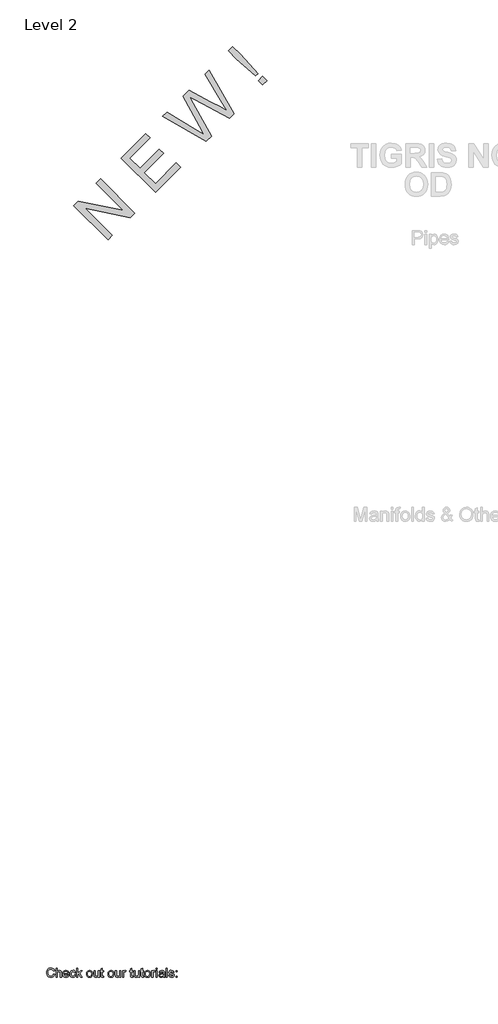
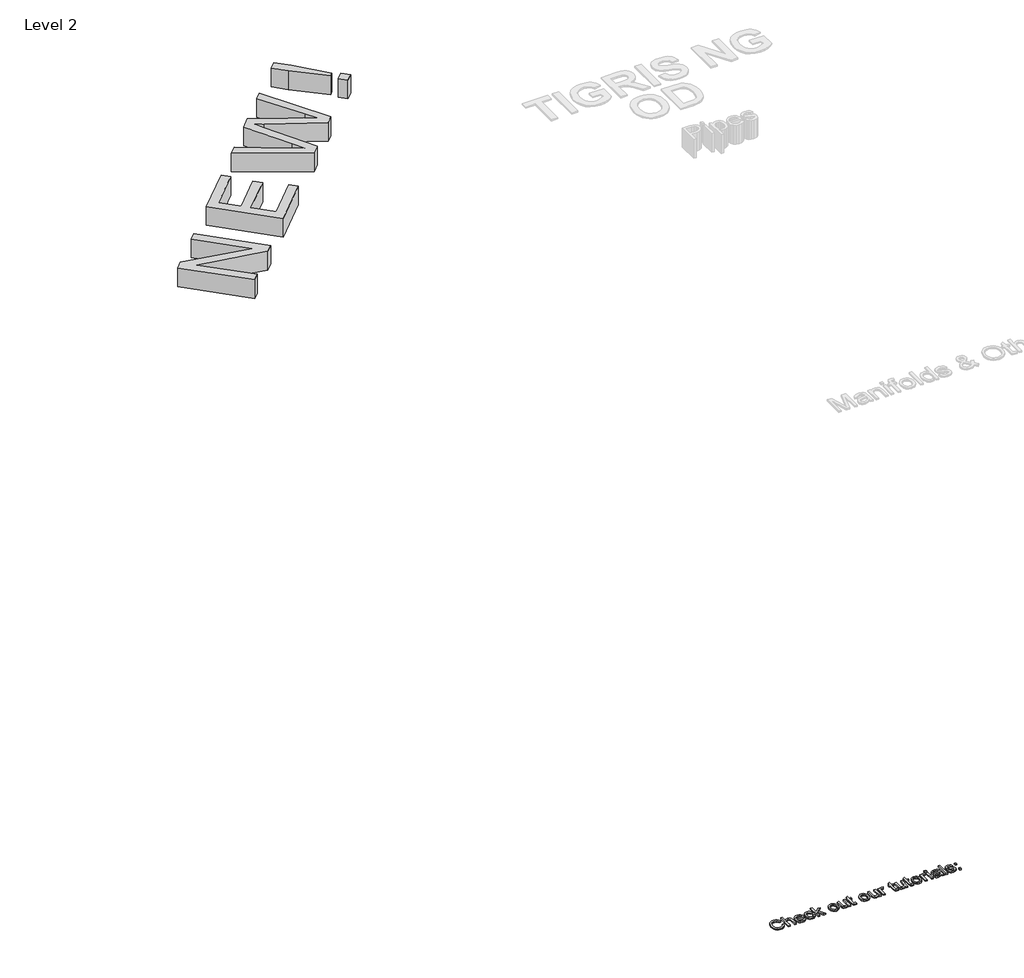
# One storey, part 1 of 2: 2 proxies.
"""IFC4 building model written with IfcOpenShell, lengths in millimetres."""

import ifcopenshell
import ifcopenshell.guid

model = None  # the IFC model being written
_history = None  # IfcOwnerHistory: only IFC2X3 demands one
_inside = {}  # id of a spatial element -> (the spatial element, [elements in it])
_under = {}  # id of a project, library or spatial element -> (it, [spatial elements below it])
_declared = {}  # id of a project -> (the project, [libraries it declares])
_typed = {}  # id of a type object -> (the type object, [elements of that type])
_made_of = {}  # id of a material, layer set ... -> (it, [elements and type objects made of it])


def new_model(schema):
    """Start an empty IFC model of exactly this schema.

    Asked for "IFC4X3", IfcOpenShell would pick the latest addendum, in which some entities
    have other attributes; the version numbers below select the first issue.
    IFC2X3 requires an IfcOwnerHistory on every rooted entity: one is made here for all.
    """
    global model, _history
    if schema == "IFC4X3":
        model = ifcopenshell.file(schema_version=(4, 3, 0, 0))
    else:
        model = ifcopenshell.file(schema=schema)
    _inside.clear()
    _under.clear()
    _declared.clear()
    _typed.clear()
    _made_of.clear()
    _history = None
    if model.schema == "IFC2X3":
        org = make("IfcOrganization", Name="unknown")
        user = make(
            "IfcPersonAndOrganization",
            ThePerson=make("IfcPerson", FamilyName="unknown"),
            TheOrganization=org,
        )
        app = make(
            "IfcApplication",
            ApplicationDeveloper=org,
            Version="unknown",
            ApplicationFullName="unknown",
            ApplicationIdentifier="unknown",
        )
        _history = make(
            "IfcOwnerHistory",
            OwningUser=user,
            OwningApplication=app,
            ChangeAction="ADDED",
            CreationDate=0,
        )
    return model


def make(cls, **values):
    """One entity of the class cls with the attributes given. An attribute that is None is left unset."""
    return model.create_entity(
        cls, **{name: value for name, value in values.items() if value is not None}
    )


def rooted(cls, **values):
    """An entity with a GlobalId (a new one), such as an element, a storey or a relation."""
    return make(cls, GlobalId=ifcopenshell.guid.new(), OwnerHistory=_history, **values)


def si_unit(unit_type, name, prefix=None):
    """IfcSIUnit, for example si_unit("LENGTHUNIT", "METRE", prefix="MILLI")."""
    return make("IfcSIUnit", UnitType=unit_type, Prefix=prefix, Name=name)


def assignment(units):
    """IfcUnitAssignment: the units of a project."""
    return None if units is None else make("IfcUnitAssignment", Units=units)


def point(xyz):
    """IfcCartesianPoint."""
    return None if xyz is None else make("IfcCartesianPoint", Coordinates=xyz)


def direction(xyz):
    """IfcDirection."""
    return None if xyz is None else make("IfcDirection", DirectionRatios=xyz)


def frame(location, z_axis=None, x_axis=None):
    """IfcAxis2Placement3D, a coordinate frame: its origin and axes. An axis left out is left unset."""
    return make(
        "IfcAxis2Placement3D",
        Location=point(location),
        Axis=direction(z_axis),
        RefDirection=direction(x_axis),
    )


def origin():
    """The frame at (0, 0, 0) with its axes left unset."""
    return frame((0.0, 0.0, 0.0))


def origin_with_axes():
    """The frame at (0, 0, 0) with the z axis (0, 0, 1) and the x axis (1, 0, 0) written out."""
    return frame((0.0, 0.0, 0.0), z_axis=(0.0, 0.0, 1.0), x_axis=(1.0, 0.0, 0.0))


def place(relative_to, where):
    """IfcLocalPlacement: puts the frame where relative to a parent placement (None: the world)."""
    return make(
        "IfcLocalPlacement", PlacementRelTo=relative_to, RelativePlacement=where
    )


def context(
    kind, dimensions, precision=None, world=None, true_north=None, identifier=None
):
    """IfcGeometricRepresentationContext, for example the 3D "Model" context."""
    return make(
        "IfcGeometricRepresentationContext",
        ContextIdentifier=identifier,
        ContextType=kind,
        CoordinateSpaceDimension=dimensions,
        Precision=precision,
        WorldCoordinateSystem=world,
        TrueNorth=true_north,
    )


def project(units=None, contexts=None):
    """IfcProject with its units and contexts."""
    return rooted(
        "IfcProject",
        Name="project",
        RepresentationContexts=contexts,
        UnitsInContext=assignment(units),
    )


def spatial(cls, under=None, at=None, **own):
    """A site, building, storey or space (cls), placed at a placement, below another one or the project."""
    s = rooted(cls, ObjectPlacement=at, **own)
    if under is not None:
        _under.setdefault(under.id(), (under, []))[1].append(s)
    return s


def polyline(points):
    """IfcPolyline through the points."""
    return make("IfcPolyline", Points=[point(p) for p in points])


def outline(outer, holes=None, kind="AREA"):
    """IfcArbitraryClosedProfileDef: a profile drawn as a closed curve; with holes, ...WithVoids."""
    if holes is None:
        return make("IfcArbitraryClosedProfileDef", ProfileType=kind, OuterCurve=outer)
    return make(
        "IfcArbitraryProfileDefWithVoids",
        ProfileType=kind,
        OuterCurve=outer,
        InnerCurves=holes,
    )


def extrude(swept, where, along, depth):
    """IfcExtrudedAreaSolid: the profile swept, set in the frame where, extruded along a direction by depth."""
    return make(
        "IfcExtrudedAreaSolid",
        SweptArea=swept,
        Position=where,
        ExtrudedDirection=direction(along),
        Depth=depth,
    )


def shape(context_of_items, identifier, shape_type, items):
    """IfcShapeRepresentation: the items that make up one representation, for example the "Body"."""
    return make(
        "IfcShapeRepresentation",
        ContextOfItems=context_of_items,
        RepresentationIdentifier=identifier,
        RepresentationType=shape_type,
        Items=items,
    )


def made_of(thing, what):
    """Note that an element or type object is made of a material, layer set ...; save() writes the relation."""
    if what is not None:
        _made_of.setdefault(what.id(), (what, []))[1].append(thing)
    return thing


def element(
    cls,
    number,
    at=None,
    inside=None,
    cuts=None,
    type_object=None,
    material=None,
    context=None,
    identifier="Body",
    shape_type=None,
    held_by="IfcProductDefinitionShape",
    body=None,
    shapes=None,
    **own,
):
    """One element of the class cls, such as IfcWall. Its Tag is "e" and its number.

    at: its placement. inside: the storey or other place that contains it. cuts: it is an
    opening in that element (IfcRelVoidsElement). A single representation is given by context,
    identifier, shape_type and body (its items); several are given by shapes. held_by: the class
    of the entity that holds the representations. save() writes the other relations.
    """
    e = rooted(cls, Tag="e%d" % number, ObjectPlacement=at, **own)
    if body is not None:
        shapes = [shape(context, identifier, shape_type, body)]
    if shapes is not None:
        e.Representation = make(held_by, Representations=shapes)
    if inside is not None:
        _inside.setdefault(inside.id(), (inside, []))[1].append(e)
    if cuts is not None:
        rooted(
            "IfcRelVoidsElement", RelatingBuildingElement=cuts, RelatedOpeningElement=e
        )
    if type_object is not None:
        _typed.setdefault(type_object.id(), (type_object, []))[1].append(e)
    return made_of(e, material)


def aggregate(whole, parts):
    """IfcRelAggregates: a whole, such as a stair, and the parts it consists of."""
    return rooted("IfcRelAggregates", RelatingObject=whole, RelatedObjects=parts)


def save(model, path):
    """Write the relations noted so far, then the file.

    IfcRelAggregates (storeys below a building ...), IfcRelContainedInSpatialStructure (elements
    in a storey), IfcRelDefinesByType, IfcRelAssociatesMaterial and IfcRelDeclares: one each for
    every whole, place, type object, material and project.
    """
    for whole, parts in _under.values():
        aggregate(whole, parts)
    for where, things in _inside.values():
        rooted(
            "IfcRelContainedInSpatialStructure",
            RelatedElements=things,
            RelatingStructure=where,
        )
    for kind, things in _typed.values():
        rooted("IfcRelDefinesByType", RelatedObjects=things, RelatingType=kind)
    for what, things in _made_of.values():
        rooted("IfcRelAssociatesMaterial", RelatedObjects=things, RelatingMaterial=what)
    for by, libraries in _declared.values():
        rooted("IfcRelDeclares", RelatingContext=by, RelatedDefinitions=libraries)
    model.write(path)


model = new_model("IFC4")

# Units and contexts
model_context = context("Model", 3, world=origin())
ifc_project = project(units=[si_unit("LENGTHUNIT", "METRE", prefix="MILLI")], contexts=[model_context])

# Site, building, storey
site = spatial("IfcSite", under=ifc_project)
building = spatial("IfcBuilding", under=site)
storey = spatial("IfcBuildingStorey", under=building, Name="Level 2", Elevation=0.0)

# Proxies
placement = place(None, origin())
element("IfcBuildingElementProxy", 1, Name="Rockwell 500", ObjectType="Rockwell 500", at=placement, inside=storey, context=model_context, shape_type="SweptSolid", body=[
    extrude(outline(polyline([(5752.1904248, 13081.1447507), (5382.0446829, 13451.2904926), (5431.5661347, 13500.8119444), (5918.1957295, 13400.9557323), (5624.952826, 13694.1986357), (5671.2210438, 13740.4668535), (6041.3667857, 13370.3211116), (5991.8453339, 13320.7996598), (5505.1253715, 13420.7462395), (5798.4586425, 13127.4129684), (5752.1904248, 13081.1447507)])), origin_with_axes(), (0.0, 0.0, 1.0), 150.0),
    extrude(outline(polyline([(6266.9243472, 13595.8786731), (5896.7786052, 13966.024415), (6162.8208572, 14232.066667), (6209.089075, 14185.7984492), (5989.3150407, 13966.024415), (6099.2020579, 13856.1373978), (6307.4090377, 14064.3443777), (6353.6772554, 14018.0761599), (6145.4702756, 13809.8691801), (6266.9243472, 13688.4151085), (6492.4819086, 13913.97267), (6538.7501264, 13867.7044523), (6266.9243472, 13595.8786731)])), origin_with_axes(), (0.0, 0.0, 1.0), 150.0),
    extrude(outline(polyline([(6818.9800936, 14147.9344195), (6347.8937282, 14417.1395379), (6395.6078278, 14464.8536375), (6697.4356544, 14280.142237), (6790.6046632, 14223.1202733), (6743.5231369, 14308.8791378), (6564.9567341, 14634.2025438), (6633.7264874, 14702.9722971), (6869.6763244, 14573.6562433), (6960.2924481, 14528.7209478), (7045.0798608, 14477.5954709), (6989.6845141, 14568.0534513), (6803.3464966, 14872.5923063), (6851.0605961, 14920.3064059), (7120.175347, 14449.1296729), (7070.7442628, 14399.6985887), (6696.4416107, 14596.5192493), (6644.2091305, 14623.9910036), (6678.2777205, 14562.0891888), (6874.8272783, 14203.7816042), (6818.9800936, 14147.9344195)])), origin_with_axes(), (0.0, 0.0, 1.0), 150.0),
    extrude(outline(polyline([(7354.2274641, 14856.6876065), (7142.8576178, 15044.9233439), (7059.267576, 15128.5133857), (7105.5357937, 15174.7816034), (7189.1258355, 15091.1915616), (7377.3615729, 14879.8217153), (7354.2274641, 14856.6876065)])), origin_with_axes(), (0.0, 0.0, 1.0), 150.0),
    extrude(outline(polyline([(7429.4133179, 14758.3676438), (7383.1451001, 14804.6358615), (7429.4133179, 14850.9040792), (7475.6815356, 14804.6358615), (7429.4133179, 14758.3676438)])), origin_with_axes(), (0.0, 0.0, 1.0), 150.0),
])
element("IfcBuildingElementProxy", 2, Name="Arial 100", ObjectType="Arial 100", at=placement, inside=storey, context=model_context, shape_type="SweptSolid", body=[
    extrude(outline(polyline([(5161.2988692, 5124.3910787), (5173.8559079, 5121.1537171), (5168.0617665, 5106.5212107), (5158.9689499, 5095.8311731), (5147.0250478, 5089.2920706), (5132.6776499, 5087.1123698), (5118.1125886, 5088.7617074), (5106.5457656, 5093.7097203), (5097.6798095, 5101.7847301), (5091.2173491, 5112.8150585), (5085.9566366, 5139.6704442), (5087.443493, 5154.318279), (5091.9040621, 5166.9672882), (5099.1053522, 5177.2158675), (5108.8143712, 5184.6624122), (5120.3290776, 5189.1965578), (5132.9474301, 5190.7079397), (5146.7154137, 5188.7520337), (5158.0982958, 5182.8843159), (5166.740457, 5173.4665368), (5172.2862781, 5160.8604471), (5159.7292393, 5157.8683402), (5149.4285435, 5173.3071213), (5132.4569207, 5178.1509009), (5112.8120222, 5172.7798238), (5101.7142487, 5158.3588495), (5098.5136753, 5139.6949697), (5102.3028599, 5118.0635083), (5114.0996092, 5104.2434081), (5131.4268512, 5099.6694086), (5141.9084223, 5101.2267757), (5150.642554, 5105.898877), (5157.2368388, 5113.6366617), (5161.2988692, 5124.3910787)])), origin_with_axes(), (0.0, 0.0, 1.0), 10.0),
    extrude(outline(polyline([(5189.5522064, 5088.6819997), (5189.5522064, 5189.1383098), (5202.1092452, 5189.1383098), (5202.1092452, 5152.2029575), (5211.9010376, 5161.0689136), (5223.9614357, 5164.0242323), (5238.0635788, 5160.7991334), (5246.6229666, 5151.8841264), (5249.1981406, 5135.3784876), (5249.1981406, 5088.6819997), (5236.6411018, 5088.6819997), (5236.6411018, 5134.0786379), (5232.6434508, 5147.3223897), (5221.3126853, 5151.4671935), (5211.0242522, 5148.6712903), (5204.1571216, 5141.0929212), (5202.1092452, 5127.8736949), (5202.1092452, 5088.6819997), (5189.5522064, 5088.6819997)])), origin_with_axes(), (0.0, 0.0, 1.0), 10.0),
    extrude(outline(polyline([(5318.114701, 5110.6568175), (5330.4264851, 5109.0871877), (5325.9904414, 5099.81043), (5318.9117786, 5092.8758544), (5309.3499124, 5088.553241), (5297.4642583, 5087.1123698), (5282.7305844, 5089.598639), (5271.3936876, 5097.0574464), (5264.1648064, 5109.0044142), (5261.7551793, 5124.9551644), (5264.1893319, 5141.4424091), (5271.4917895, 5153.7725873), (5282.6754021, 5161.461321), (5296.7530198, 5164.0242323), (5310.3922448, 5161.4674524), (5321.2907489, 5153.7971128), (5328.4368566, 5141.4914601), (5330.8188925, 5125.0287408), (5330.7453162, 5121.6442264), (5274.3122181, 5121.6442264), (5276.4857875, 5112.2448414), (5281.5349679, 5105.3347913), (5288.8220971, 5101.0857543), (5297.709513, 5099.6694086), (5310.0212971, 5102.2936335), (5318.114701, 5110.6568175)]), holes=[polyline([(5274.3122181, 5134.2012652), (5318.2618538, 5134.2012652), (5313.2341332, 5145.5810816), (5305.9132815, 5149.9956655), (5296.7039689, 5151.4671935), (5281.2406623, 5146.7705667), (5276.3754229, 5141.2799279), (5274.3122181, 5134.2012652)])]), origin_with_axes(), (0.0, 0.0, 1.0), 10.0),
    extrude(outline(polyline([(5390.4648267, 5115.365707), (5403.0218655, 5113.7960772), (5399.5208551, 5102.627793), (5392.9418988, 5094.1879668), (5383.9042645, 5088.8812691), (5373.0272201, 5087.1123698), (5359.670038, 5089.5802449), (5349.225255, 5096.98387), (5342.4838175, 5108.9982828), (5340.2366716, 5125.2985209), (5344.0749071, 5146.15743), (5355.7735546, 5159.5605974), (5372.8555419, 5164.0242323), (5383.4658717, 5162.4913906), (5391.9486174, 5157.8928657), (5398.0339988, 5150.4739121), (5401.4522356, 5140.4797846), (5388.8951969, 5138.9101547), (5383.0703986, 5148.3156711), (5372.9536437, 5151.4671935), (5364.8387801, 5149.9159578), (5358.3977795, 5145.2622505), (5354.1947277, 5137.2546858), (5352.7937104, 5125.6418774), (5354.1640708, 5113.8727193), (5358.2751521, 5105.8375634), (5364.5996568, 5101.2114473), (5372.6102872, 5099.6694086), (5384.4438247, 5103.5199068), (5390.4648267, 5115.365707)])), origin_with_axes(), (0.0, 0.0, 1.0), 10.0),
    extrude(outline(polyline([(5414.0092744, 5088.6819997), (5414.0092744, 5189.1383098), (5426.5663132, 5189.1383098), (5426.5663132, 5135.1577584), (5454.7215485, 5162.4546024), (5472.0855787, 5162.4546024), (5443.5869868, 5134.8144019), (5473.6552085, 5088.6819997), (5458.9889797, 5088.6819997), (5434.5861407, 5126.0833358), (5426.5663132, 5118.308763), (5426.5663132, 5088.6819997), (5414.0092744, 5088.6819997)])), origin_with_axes(), (0.0, 0.0, 1.0), 10.0),
    extrude(outline(polyline([(5520.7441039, 5125.568301), (5523.4602993, 5143.3553955), (5531.6088855, 5155.857252), (5541.6765895, 5161.9824872), (5553.7308562, 5164.0242323), (5566.9224914, 5161.5379631), (5577.4592448, 5154.0791557), (5584.3662293, 5142.2364211), (5586.6685575, 5126.5983706), (5582.59733, 5104.2556708), (5570.7392671, 5091.6127929), (5553.7308562, 5087.1123698), (5540.3798054, 5089.5894419), (5529.8553147, 5097.0206582), (5523.0219066, 5109.1117131), (5520.7441039, 5125.568301)]), holes=[polyline([(5533.3011427, 5125.5928265), (5534.7542766, 5114.2283385), (5539.1136782, 5106.131869), (5545.6742405, 5101.2850237), (5553.7308562, 5099.6694086), (5561.7506837, 5101.2942207), (5568.2989832, 5106.1686572), (5572.6583848, 5114.3724257), (5574.1115187, 5125.985234), (5572.6491878, 5137.0186281), (5568.262195, 5145.0047331), (5561.7046984, 5149.8515784), (5553.7308562, 5151.4671935), (5545.6742405, 5149.8577098), (5539.1136782, 5145.0292586), (5534.7542766, 5136.9511831), (5533.3011427, 5125.5928265)])]), origin_with_axes(), (0.0, 0.0, 1.0), 10.0),
    extrude(outline(polyline([(5647.8841215, 5088.6819997), (5647.8841215, 5101.3616658), (5638.0494095, 5090.6746938), (5625.2225906, 5087.1123698), (5613.4135785, 5089.6139674), (5605.2711237, 5095.8924868), (5601.5309901, 5105.1385876), (5600.7952261, 5116.8127096), (5600.7952261, 5162.4546024), (5613.3522648, 5162.4546024), (5613.3522648, 5122.7233469), (5614.1125543, 5109.9210535), (5619.0789612, 5102.4039981), (5628.4354266, 5099.6694086), (5638.9200635, 5102.4653117), (5645.8485078, 5110.080469), (5647.8841215, 5124.0722476), (5647.8841215, 5162.4546024), (5660.4411602, 5162.4546024), (5660.4411602, 5088.6819997), (5647.8841215, 5088.6819997)])), origin_with_axes(), (0.0, 0.0, 1.0), 10.0),
    extrude(outline(polyline([(5704.3907959, 5099.1543738), (5705.9604258, 5088.3141177), (5696.5671722, 5087.1123698), (5686.0457471, 5089.1970344), (5680.7972973, 5094.6662134), (5679.2767184, 5108.9155094), (5679.2767184, 5149.8975637), (5669.8589393, 5149.8975637), (5669.8589393, 5162.4546024), (5679.2767184, 5162.4546024), (5679.2767184, 5180.3827183), (5691.8337571, 5187.7648837), (5691.8337571, 5162.4546024), (5704.3907959, 5162.4546024), (5704.3907959, 5149.8975637), (5691.8337571, 5149.8975637), (5691.8337571, 5109.2833914), (5692.4959447, 5102.8086683), (5694.641923, 5100.5155372), (5698.9216169, 5099.6694086), (5704.3907959, 5099.1543738)])), origin_with_axes(), (0.0, 0.0, 1.0), 10.0),
    extrude(outline(polyline([(5753.0493211, 5125.568301), (5755.7655165, 5143.3553955), (5763.9141027, 5155.857252), (5773.9818067, 5161.9824872), (5786.0360734, 5164.0242323), (5799.2277086, 5161.5379631), (5809.7644621, 5154.0791557), (5816.6714465, 5142.2364211), (5818.9737747, 5126.5983706), (5814.9025473, 5104.2556708), (5803.0444843, 5091.6127929), (5786.0360734, 5087.1123698), (5772.6850226, 5089.5894419), (5762.1605319, 5097.0206582), (5755.3271238, 5109.1117131), (5753.0493211, 5125.568301)]), holes=[polyline([(5765.6063599, 5125.5928265), (5767.0594938, 5114.2283385), (5771.4188954, 5106.131869), (5777.9794577, 5101.2850237), (5786.0360734, 5099.6694086), (5794.0559009, 5101.2942207), (5800.6042004, 5106.1686572), (5804.963602, 5114.3724257), (5806.4167359, 5125.985234), (5804.954405, 5137.0186281), (5800.5674122, 5145.0047331), (5794.0099156, 5149.8515784), (5786.0360734, 5151.4671935), (5777.9794577, 5149.8577098), (5771.4188954, 5145.0292586), (5767.0594938, 5136.9511831), (5765.6063599, 5125.5928265)])]), origin_with_axes(), (0.0, 0.0, 1.0), 10.0),
    extrude(outline(polyline([(5880.1893387, 5088.6819997), (5880.1893387, 5101.3616658), (5870.3546267, 5090.6746938), (5857.5278078, 5087.1123698), (5845.7187957, 5089.6139674), (5837.5763409, 5095.8924868), (5833.8362073, 5105.1385876), (5833.1004433, 5116.8127096), (5833.1004433, 5162.4546024), (5845.6574821, 5162.4546024), (5845.6574821, 5122.7233469), (5846.4177715, 5109.9210535), (5851.3841785, 5102.4039981), (5860.7406439, 5099.6694086), (5871.2252807, 5102.4653117), (5878.153725, 5110.080469), (5880.1893387, 5124.0722476), (5880.1893387, 5162.4546024), (5892.7463774, 5162.4546024), (5892.7463774, 5088.6819997), (5880.1893387, 5088.6819997)])), origin_with_axes(), (0.0, 0.0, 1.0), 10.0),
    extrude(outline(polyline([(5910.0123058, 5088.6819997), (5910.0123058, 5162.4546024), (5920.9997147, 5162.4546024), (5920.9997147, 5151.5407699), (5928.798813, 5161.5962111), (5936.6469622, 5164.0242323), (5949.2530519, 5160.1492086), (5945.0591972, 5148.8920195), (5936.2300293, 5151.4671935), (5929.1299068, 5148.9901214), (5924.6049582, 5142.1229908), (5922.5693445, 5127.4567619), (5922.5693445, 5088.6819997), (5910.0123058, 5088.6819997)])), origin_with_axes(), (0.0, 0.0, 1.0), 10.0),
    extrude(outline(polyline([(6023.0256547, 5099.1543738), (6024.5952845, 5088.3141177), (6015.2020309, 5087.1123698), (6004.6806058, 5089.1970344), (5999.432156, 5094.6662134), (5997.9115771, 5108.9155094), (5997.9115771, 5149.8975637), (5988.4937981, 5149.8975637), (5988.4937981, 5162.4546024), (5997.9115771, 5162.4546024), (5997.9115771, 5180.3827183), (6010.4686159, 5187.7648837), (6010.4686159, 5162.4546024), (6023.0256547, 5162.4546024), (6023.0256547, 5149.8975637), (6010.4686159, 5149.8975637), (6010.4686159, 5109.2833914), (6011.1308035, 5102.8086683), (6013.2767818, 5100.5155372), (6017.5564757, 5099.6694086), (6023.0256547, 5099.1543738)])), origin_with_axes(), (0.0, 0.0, 1.0), 10.0),
    extrude(outline(polyline([(6082.6715888, 5088.6819997), (6082.6715888, 5101.3616658), (6072.8368768, 5090.6746938), (6060.0100579, 5087.1123698), (6048.2010459, 5089.6139674), (6040.0585911, 5095.8924868), (6036.3184574, 5105.1385876), (6035.5826934, 5116.8127096), (6035.5826934, 5162.4546024), (6048.1397322, 5162.4546024), (6048.1397322, 5122.7233469), (6048.9000217, 5109.9210535), (6053.8664286, 5102.4039981), (6063.222894, 5099.6694086), (6073.7075309, 5102.4653117), (6080.6359751, 5110.080469), (6082.6715888, 5124.0722476), (6082.6715888, 5162.4546024), (6095.2286276, 5162.4546024), (6095.2286276, 5088.6819997), (6082.6715888, 5088.6819997)])), origin_with_axes(), (0.0, 0.0, 1.0), 10.0),
    extrude(outline(polyline([(6139.1782633, 5099.1543738), (6140.7478931, 5088.3141177), (6131.3546395, 5087.1123698), (6120.8332145, 5089.1970344), (6115.5847647, 5094.6662134), (6114.0641857, 5108.9155094), (6114.0641857, 5149.8975637), (6104.6464067, 5149.8975637), (6104.6464067, 5162.4546024), (6114.0641857, 5162.4546024), (6114.0641857, 5180.3827183), (6126.6212245, 5187.7648837), (6126.6212245, 5162.4546024), (6139.1782633, 5162.4546024), (6139.1782633, 5149.8975637), (6126.6212245, 5149.8975637), (6126.6212245, 5109.2833914), (6127.2834121, 5102.8086683), (6129.4293904, 5100.5155372), (6133.7090843, 5099.6694086), (6139.1782633, 5099.1543738)])), origin_with_axes(), (0.0, 0.0, 1.0), 10.0),
    extrude(outline(polyline([(6148.5960424, 5125.568301), (6151.3122378, 5143.3553955), (6159.460824, 5155.857252), (6169.5285279, 5161.9824872), (6181.5827946, 5164.0242323), (6194.7744298, 5161.5379631), (6205.3111833, 5154.0791557), (6212.2181677, 5142.2364211), (6214.5204959, 5126.5983706), (6210.4492685, 5104.2556708), (6198.5912055, 5091.6127929), (6181.5827946, 5087.1123698), (6168.2317439, 5089.5894419), (6157.7072531, 5097.0206582), (6150.873845, 5109.1117131), (6148.5960424, 5125.568301)]), holes=[polyline([(6161.1530811, 5125.5928265), (6162.606215, 5114.2283385), (6166.9656167, 5106.131869), (6173.5261789, 5101.2850237), (6181.5827946, 5099.6694086), (6189.6026221, 5101.2942207), (6196.1509216, 5106.1686572), (6200.5103232, 5114.3724257), (6201.9634571, 5125.985234), (6200.5011262, 5137.0186281), (6196.1141334, 5145.0047331), (6189.5566368, 5149.8515784), (6181.5827946, 5151.4671935), (6173.5261789, 5149.8577098), (6166.9656167, 5145.0292586), (6162.606215, 5136.9511831), (6161.1530811, 5125.5928265)])]), origin_with_axes(), (0.0, 0.0, 1.0), 10.0),
    extrude(outline(polyline([(6228.6471645, 5088.6819997), (6228.6471645, 5162.4546024), (6239.6345734, 5162.4546024), (6239.6345734, 5151.5407699), (6247.4336717, 5161.5962111), (6255.281821, 5164.0242323), (6267.8879107, 5160.1492086), (6263.6940559, 5148.8920195), (6254.864888, 5151.4671935), (6247.7647655, 5148.9901214), (6243.239817, 5142.1229908), (6241.2042033, 5127.4567619), (6241.2042033, 5088.6819997), (6228.6471645, 5088.6819997)])), origin_with_axes(), (0.0, 0.0, 1.0), 10.0),
    extrude(outline(polyline([(6275.7360599, 5176.581271), (6275.7360599, 5189.1383098), (6288.2930987, 5189.1383098), (6288.2930987, 5176.581271), (6275.7360599, 5176.581271)])), origin_with_axes(), (0.0, 0.0, 1.0), 10.0),
    extrude(outline(polyline([(6275.7360599, 5088.6819997), (6275.7360599, 5162.4546024), (6288.2930987, 5162.4546024), (6288.2930987, 5088.6819997), (6275.7360599, 5088.6819997)])), origin_with_axes(), (0.0, 0.0, 1.0), 10.0),
    extrude(outline(polyline([(6354.2175522, 5098.0997787), (6342.0406582, 5089.5894419), (6328.5884399, 5087.1123698), (6318.094606, 5088.6022919), (6310.3537556, 5093.0720581), (6305.5804868, 5099.8594809), (6303.9893971, 5108.3023727), (6306.3928928, 5118.2351866), (6312.7082004, 5125.4456737), (6321.5005801, 5129.5659521), (6332.3653617, 5131.454413), (6354.1439758, 5135.770895), (6354.2175522, 5138.5667982), (6350.7594614, 5147.8374245), (6336.8780475, 5151.4671935), (6324.1738559, 5149.0514351), (6318.1160657, 5140.4797846), (6305.559027, 5142.0494144), (6310.9914178, 5154.3121476), (6321.9297758, 5161.4981092), (6338.4967283, 5164.0242323), (6353.7147801, 5161.7924148), (6362.3109561, 5156.1883458), (6366.1614543, 5147.6657462), (6366.774591, 5136.6783373), (6366.774591, 5121.0556152), (6367.4122531, 5099.2402129), (6369.9138507, 5088.6819997), (6357.3568119, 5088.6819997), (6354.2175522, 5098.0997787)]), holes=[polyline([(6354.2175522, 5123.2138563), (6333.959517, 5119.3633581), (6323.1560491, 5117.3277443), (6318.2632185, 5114.0168064), (6316.5464359, 5109.1852895), (6320.2865695, 5102.3917353), (6331.2617157, 5099.6694086), (6343.9659073, 5102.6737782), (6352.157413, 5109.945579), (6354.1439758, 5119.6576636), (6354.2175522, 5123.2138563)])]), origin_with_axes(), (0.0, 0.0, 1.0), 10.0),
    extrude(outline(polyline([(6384.0405193, 5088.6819997), (6384.0405193, 5189.1383098), (6396.597558, 5189.1383098), (6396.597558, 5088.6819997), (6384.0405193, 5088.6819997)])), origin_with_axes(), (0.0, 0.0, 1.0), 10.0),
    extrude(outline(polyline([(6410.7242267, 5110.6568175), (6423.2812654, 5112.2264473), (6429.0938009, 5102.9067701), (6442.4111292, 5099.6694086), (6455.2134226, 5102.63699), (6459.3827519, 5109.6022224), (6455.1888971, 5115.2430797), (6442.2639764, 5118.8237978), (6423.3548418, 5124.9674271), (6415.1020224, 5132.141126), (6412.2938565, 5142.2701436), (6414.5501994, 5151.626609), (6420.7060915, 5158.7757825), (6428.6891308, 5162.4913906), (6439.4925987, 5164.0242323), (6454.7719642, 5161.5594229), (6464.4840489, 5154.8884961), (6468.800531, 5143.6190443), (6456.2434922, 5142.0494144), (6451.5223399, 5148.9778587), (6440.4736173, 5151.4671935), (6428.4561388, 5149.0882233), (6424.8508953, 5143.5454679), (6426.3469487, 5139.8911734), (6431.0313128, 5137.1197957), (6441.8470434, 5134.4465199), (6460.2779314, 5128.5358825), (6468.8373192, 5121.8404302), (6471.9397907, 5110.9265976), (6468.2977589, 5098.9091191), (6457.7885966, 5090.1903158), (6442.2394509, 5087.1123698), (6429.5781789, 5088.5961605), (6420.3382095, 5093.0475327), (6414.1700547, 5100.4174353), (6410.7242267, 5110.6568175)])), origin_with_axes(), (0.0, 0.0, 1.0), 10.0),
    extrude(outline(polyline([(6489.205719, 5088.6819997), (6489.205719, 5101.2390384), (6501.7627577, 5101.2390384), (6501.7627577, 5088.6819997), (6489.205719, 5088.6819997)])), origin_with_axes(), (0.0, 0.0, 1.0), 10.0),
    extrude(outline(polyline([(6489.205719, 5149.8975637), (6489.205719, 5162.4546024), (6501.7627577, 5162.4546024), (6501.7627577, 5149.8975637), (6489.205719, 5149.8975637)])), origin_with_axes(), (0.0, 0.0, 1.0), 10.0),
])

save(model, "model.ifc")
